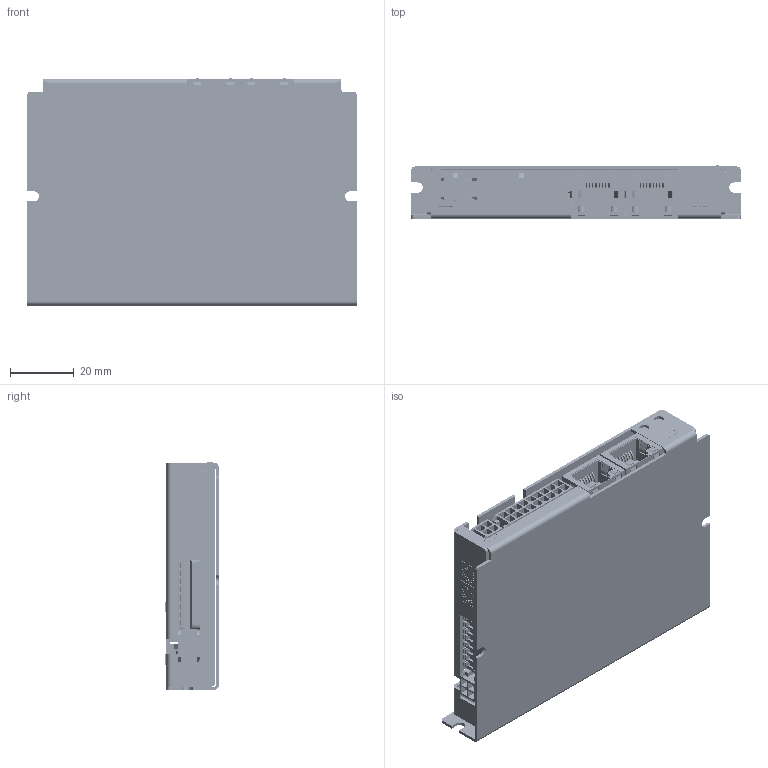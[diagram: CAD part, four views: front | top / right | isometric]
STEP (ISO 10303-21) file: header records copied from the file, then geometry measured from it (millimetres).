
FILE_DESCRIPTION (( 'STEP AP214' ), '1' );
FILE_NAME ('BX4808-CATv2.1_STO_simplified_noconnectors.STEP', '2018-07-26T14:18:50', ( 'a_neacsu' ), ( '' ), 'SwSTEP 2.0', 'SolidWorks 2017', '' );
FILE_SCHEMA (( 'AUTOMOTIVE_DESIGN' ));
Length unit declared in the file: millimetre
Products named in the file (30): MiniFit_PCB90_2x2_46999-0014or02; RJ45 tyco 1888250-1; CGrid_2x5_PCB90_901303210; HexSwitch_P36THR_L254; MicroFit_PCB90_2x2; MicroFit_PCB90_2x9; MiniFit_PCB90_2x5; P027.710.0011.21A_2; P027.751.0004.11A ECAT4808 Cover; P027.710.0011.21A; BX4808-CATv2.1_STO_simplified_noconnectors; P027.751.0004.11A ECAT4808 Cover_D‚faut; Baseplate 3_D‚faut; Baseplate 3; DIPsw 8 piano Tyco 5435802-1; LED_2x5mm_bicolour
Assembly tree (17 placements, depth 2):
  RJ45 tyco 1888250-1
  RJ45 tyco 1888250-1
  MiniFit_PCB90_2x2_46999-0014or02
  MicroFit_PCB90_2x2
  CGrid_2x5_PCB90_901303210
Bounding box: 103 x 16.8 x 71.2 mm (x, y, z)
Volume: 38482.4 mm3; surface area: 66079.7 mm2
Topology: 17 solids, 17 shells, 6282 faces, 15812 edges, 10263 vertices
Faces by surface type: plane 4062, cylinder 1897, bspline 307, cone 15, torus 1
Entity records: 186329 total; most frequent: CARTESIAN_POINT 32795, DIRECTION 24740, ORIENTED_EDGE 24294, EDGE_CURVE 12147, LINE 8400, VECTOR 8400, AXIS2_PLACEMENT_3D 8170, VERTEX_POINT 7918
